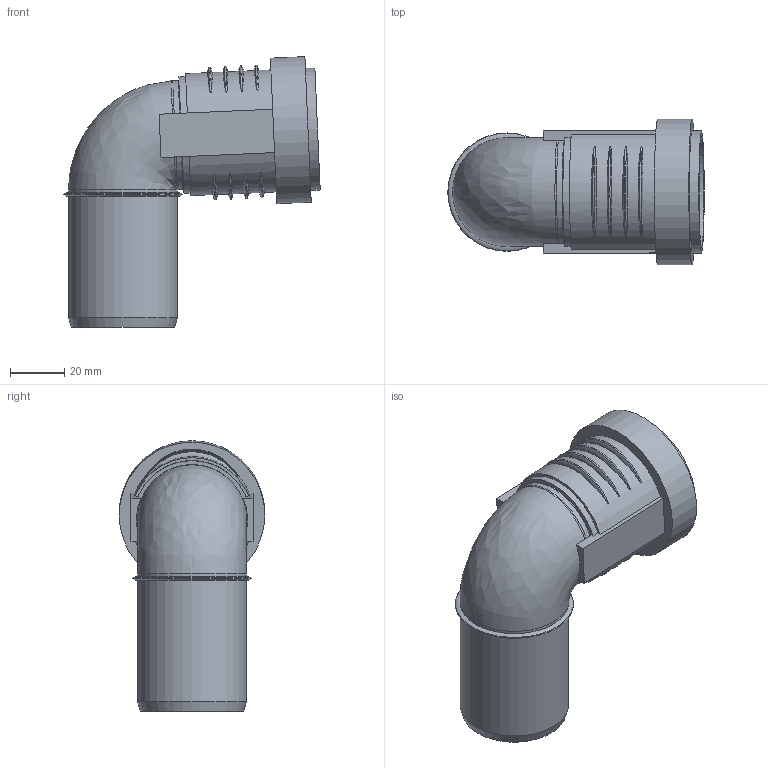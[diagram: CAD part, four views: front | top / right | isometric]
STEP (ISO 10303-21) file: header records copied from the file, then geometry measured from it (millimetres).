
FILE_DESCRIPTION(/* description */ (''),/* implementation_level */ '2;1');
FILE_NAME(/* name */ 'Z:\Geberit\Export\NewStep\390124.stp',/* time_stamp */ '2014-04-02T08:09:05+02:00',/* author */ ('ML'),/* organization */ (''),/* preprocessor_version */ 'ST-DEVELOPER v15.2',/* originating_system */ 'Autodesk Inventor 2014',/* authorisation */ '');
FILE_SCHEMA (('AUTOMOTIVE_DESIGN { 1 0 10303 214 3 1 1 }'));
Length unit declared in the file: millimetre
Products named in the file (3): 861320; 861400; 390124
Bounding box: 94.51 x 53.7 x 99.79 mm (x, y, z)
Volume: 39826.9 mm3; surface area: 40413.6 mm2
Topology: 2 solids, 2 shells, 68 faces, 162 edges, 109 vertices
Faces by surface type: torus 28, plane 19, cylinder 18, cone 2, bspline 1
Full cylindrical faces by diameter (mm): 36.15 x3, 40.15 x4, 41 x2, 45 x1, 49.7 x1, 53.7 x1
Entity records: 2598 total; most frequent: CARTESIAN_POINT 1022, DIRECTION 290, ORIENTED_EDGE 278, EDGE_CURVE 139, AXIS2_PLACEMENT_3D 127, VERTEX_POINT 106, EDGE_LOOP 103, STYLED_ITEM 70
